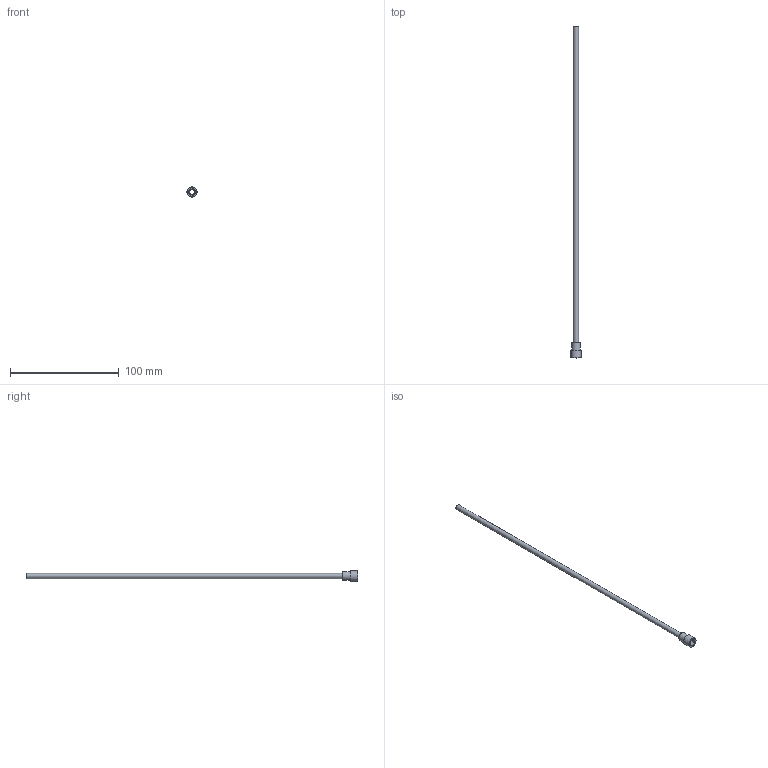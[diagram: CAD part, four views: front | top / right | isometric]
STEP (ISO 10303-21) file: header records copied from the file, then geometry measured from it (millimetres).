
FILE_DESCRIPTION(/* description */ (''),/* implementation_level */ '2;1');
FILE_NAME(/* name */ 'C:/Users/drich/Desktop/JR187T-12 v1.step',/* time_stamp */ '2019-12-30T13:04:00-06:00',/* author */ (''),/* organization */ (''),/* preprocessor_version */ 'ST-DEVELOPER v18',/* originating_system */ 'Autodesk Translation Framework v8.12.0.6',/* authorisation */ '');
FILE_SCHEMA (('AUTOMOTIVE_DESIGN { 1 0 10303 214 3 1 1 }'));
Length unit declared in the file: inch
Products named in the file (1): JR187T-12
Bounding box: 9.4 x 304.8 x 9.4 mm (x, y, z)
Volume: 1515.1 mm3; surface area: 8901.1 mm2
Topology: 1 solids, 1 shells, 19 faces, 47 edges, 33 vertices
Faces by surface type: plane 11, cylinder 4, torus 3, cone 1
Full cylindrical faces by diameter (mm): 4.242 x1, 4.724 x1, 7.818 x1, 9.398 x1
Entity records: 624 total; most frequent: DIRECTION 111, CARTESIAN_POINT 100, ORIENTED_EDGE 94, EDGE_CURVE 47, AXIS2_PLACEMENT_3D 44, VERTEX_POINT 33, EDGE_LOOP 24, CIRCLE 24
